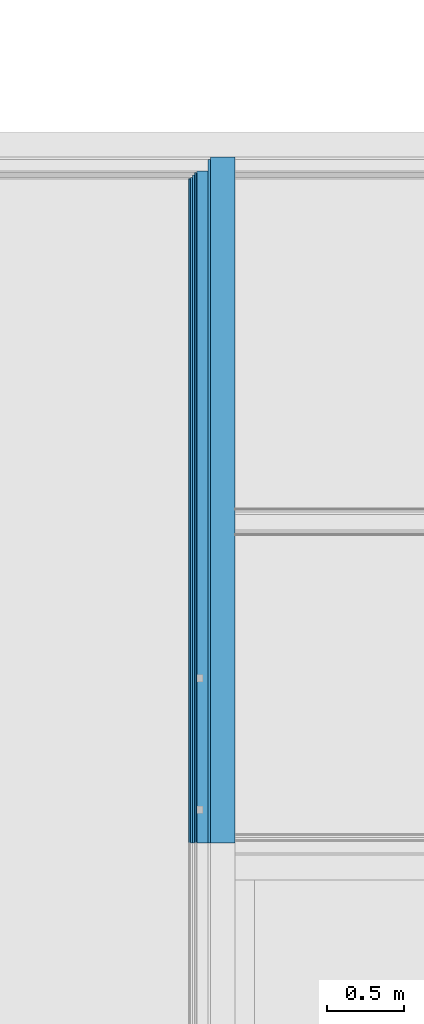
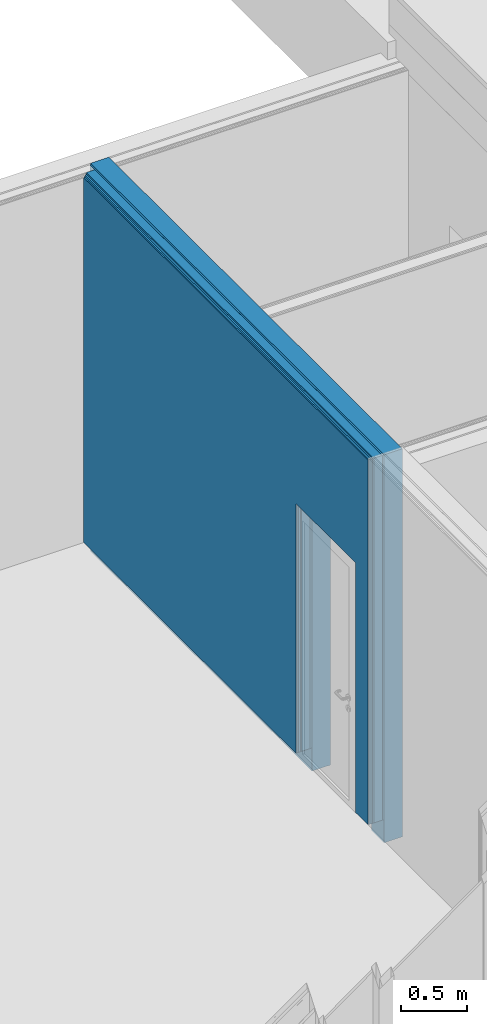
# One storey, part 30 of 139: 7 building element parts, 1 opening, 1 element without a shape of its own.
"""IFC2X3 building model written with IfcOpenShell, lengths in millimetres."""

from ifc_helpers import new_model, entity, si_unit, converted_unit, derived_unit, money_unit, direction, frame, origin_with_axes, place, context, subcontext, project, spatial, faceted_brep, material, type_object, element, aggregate, save


model = new_model("IFC2X3")

# Units and contexts
model_context = context("Model", 3, precision=0.01, world=origin_with_axes(), true_north=direction((0.0, 1.0)))
body_context = subcontext(model_context, "Body", "Model", "MODEL_VIEW")
ifc_project = project(units=[si_unit("LENGTHUNIT", "METRE", prefix="MILLI"), si_unit("AREAUNIT", "SQUARE_METRE"), si_unit("VOLUMEUNIT", "CUBIC_METRE"), converted_unit("PLANEANGLEUNIT", "DEGREE", entity("IfcPlaneAngleMeasure", 0.0174532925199), si_unit("PLANEANGLEUNIT", "RADIAN"), dimensions=[0, 0, 0, 0, 0, 0, 0]), money_unit("EUR"), converted_unit("TIMEUNIT", "Year", entity("IfcTimeMeasure", 31556926.0), si_unit("TIMEUNIT", "SECOND"), dimensions=[0, 0, 1, 0, 0, 0, 0]), si_unit("MASSUNIT", "GRAM", prefix="KILO"), si_unit("THERMODYNAMICTEMPERATUREUNIT", "DEGREE_CELSIUS"), si_unit("LUMINOUSINTENSITYUNIT", "LUMEN"), si_unit("ENERGYUNIT", "JOULE", prefix="MEGA"), derived_unit("THERMALCONDUCTANCEUNIT", [(si_unit("POWERUNIT", "WATT"), 1), (si_unit("LENGTHUNIT", "METRE"), -1), (si_unit("THERMODYNAMICTEMPERATUREUNIT", "KELVIN"), -1)]), derived_unit("SPECIFICHEATCAPACITYUNIT", [(si_unit("ENERGYUNIT", "JOULE"), 1), (si_unit("MASSUNIT", "GRAM", prefix="KILO"), -1), (si_unit("THERMODYNAMICTEMPERATUREUNIT", "KELVIN"), -1)]), derived_unit("MASSDENSITYUNIT", [(si_unit("MASSUNIT", "GRAM", prefix="KILO"), 1), (si_unit("VOLUMEUNIT", "CUBIC_METRE"), -1)])], contexts=[model_context])

# Site, building, storey
site_placement = place(None, origin_with_axes())
site = spatial("IfcSite", under=ifc_project, at=site_placement, Name="Kolde pst 67a", CompositionType="ELEMENT")
building_placement = place(site_placement, origin_with_axes())
building = spatial("IfcBuilding", under=site, at=building_placement, Name="Riigigümnaasium", CompositionType="ELEMENT")
storey_placement = place(building_placement, frame((0.0, 0.0, 4600.0), z_axis=(0.0, 0.0, 1.0), x_axis=(1.0, 0.0, 0.0)))
storey = spatial("IfcBuildingStorey", under=building, at=storey_placement, Name="2. korrus", CompositionType="ELEMENT", Elevation=4600.0)

# Wall, opening, building element parts
wall_type = type_object("IfcWallType", Name="SS-CLT-16/1_vill75+krohv 52 dB 300", PredefinedType="NOTDEFINED")
wall_placement = place(storey_placement, frame((24040.0027342, 67089.9975879, -214.0), z_axis=(0.0, 0.0, 1.0), x_axis=(0.0, -1.0, 0.0)))
wall = element("IfcWall", 1, at=wall_placement, inside=storey, type_object=wall_type, Name="Sisesein")
opening_placement = place(wall_placement, frame((3789.99969952, 0.0, 214.0), z_axis=(0.0, 0.0, 1.0), x_axis=(1.0, 0.0, 0.0)))
element("IfcOpeningElement", 2, at=opening_placement, cuts=wall, Name="Siseuks", context=body_context, shape_type="Brep", body=[
    faceted_brep([(-450.0, 300.0, 2300.0), (-450.0, 300.0, 0.0), (-450.0, -600.0, 0.0), (-450.0, -600.0, 2300.0), (450.0, 300.0, 2300.0), (450.0, 300.0, 0.0), (450.0, -600.0, 0.0), (450.0, -600.0, 2300.0)], [[[0, 1, 2, 3]], [[0, 4, 5, 1]], [[1, 5, 6, 2]], [[3, 2, 6, 7]], [[4, 0, 3, 7]], [[5, 4, 7, 6]]]),
])
ifc_material_1 = material(Name="_KANDETARIND - CLT ristkihtliimpuit vastavalt EK osale, CLT paigaldusvuugid teibitakse ROTHOBLAAS teibiga")
building_element_part_1_placement = place(wall_placement, origin_with_axes())
building_element_part_1 = element("IfcBuildingElementPart", 3, at=building_element_part_1_placement, material=ifc_material_1, Name="_KANDETARIND - CLT ristkihtliimpuit vastavalt EK osale, CLT paigaldusvuugid teibitakse ROTHOBLAAS teibiga", context=body_context, shape_type="Brep", body=[
    faceted_brep([(0.0, 0.0, 3573.0), (-0.000300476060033, 160.0, 3573.0), (-0.000300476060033, 160.0, 64.0), (0.0, 160.0, 0.0), (0.0, 0.0, 0.0), (4428.81437659, 160.0, 3573.0), (4428.81437659, 0.0, 3573.0), (4428.81437659, 160.0, 0.0), (4239.99969952, 160.0, 0.0), (4239.99969952, 160.0, 214.0), (4239.99969952, 160.0, 2514.0), (3339.99969952, 160.0, 2514.0), (3339.99969952, 160.0, 214.0), (3339.99969952, 160.0, 0.0), (3339.99969952, 0.0, 0.0), (3339.99969952, 0.0, 214.0), (3339.99969952, 0.0, 2514.0), (4239.99969952, 0.0, 2514.0), (4239.99969952, 0.0, 214.0), (4239.99969952, 0.0, 0.0), (4428.81437659, 0.0, 0.0)], [[[0, 1, 2, 3, 4]], [[5, 1, 0, 6]], [[1, 5, 7, 8, 9, 10, 11, 12, 13, 3, 2]], [[13, 14, 4, 3]], [[6, 0, 4, 14, 15, 16, 17, 18, 19, 20]], [[5, 6, 20, 7]], [[19, 8, 7, 20]], [[19, 18, 9, 8]], [[17, 10, 9, 18]], [[16, 11, 10, 17]], [[15, 12, 11, 16]], [[13, 12, 15, 14]]]),
])
ifc_material_2 = material(Name="_ÕHKVAHE")
building_element_part_2_placement = place(wall_placement, origin_with_axes())
building_element_part_2 = element("IfcBuildingElementPart", 4, at=building_element_part_2_placement, material=ifc_material_2, Name="_ÕHKVAHE", context=body_context, shape_type="Brep", body=[
    faceted_brep([(14.9996995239, -15.0, 3573.0), (14.9996995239, 0.0, 3573.0), (14.9996995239, 0.0, 214.0), (14.9996995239, -15.0, 214.0), (4428.81437659, 0.0, 3573.0), (4428.81437659, -15.0, 3573.0), (4428.81437659, 0.0, 214.0), (4239.99969952, 0.0, 214.0), (4239.99969952, 0.0, 2514.0), (3339.99969952, 0.0, 2514.0), (3339.99969952, 0.0, 214.0), (3339.99969952, -15.0, 214.0), (3339.99969952, -15.0, 2514.0), (4239.99969952, -15.0, 2514.0), (4239.99969952, -15.0, 214.0), (4428.81437659, -15.0, 214.0)], [[[0, 1, 2, 3]], [[4, 1, 0, 5]], [[1, 4, 6, 7, 8, 9, 10, 2]], [[2, 10, 11, 3]], [[5, 0, 3, 11, 12, 13, 14, 15]], [[4, 5, 15, 6]], [[15, 14, 7, 6]], [[13, 8, 7, 14]], [[12, 9, 8, 13]], [[11, 10, 9, 12]]]),
])
ifc_material_3 = material(Name="_KARKASS - metallkarkass CW 75/50/06 ja UW 75/40/06, samm 600, vahel mineraalvill, helineeldetegur αw = 1.0,  ISOVER ACOUSTIC 75mm või samaväärne")
building_element_part_3_placement = place(wall_placement, origin_with_axes())
building_element_part_3 = element("IfcBuildingElementPart", 5, at=building_element_part_3_placement, material=ifc_material_3, Name="_KARKASS - metallkarkass CW 75/50/06 ja UW 75/40/06, samm 600, vahel mineraalvill, helineeldetegur αw = 1.0,  ISOVER ACOUSTIC 75mm või samaväärne", context=body_context, shape_type="Brep", body=[
    faceted_brep([(89.9996995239, -90.0, 3573.0), (89.9996995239, -15.0, 3573.0), (89.9996995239, -15.0, 214.0), (89.9996995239, -90.0, 214.0), (4428.81437659, -15.0, 3573.0), (4428.81437659, -90.0, 3573.0), (4428.81437659, -15.0, 214.0), (4239.99969952, -15.0, 214.0), (4239.99969952, -15.0, 2514.0), (3339.99969952, -15.0, 2514.0), (3339.99969952, -15.0, 214.0), (3339.99969952, -90.0, 214.0), (3339.99969952, -90.0, 2514.0), (4239.99969952, -90.0, 2514.0), (4239.99969952, -90.0, 214.0), (4428.81437659, -90.0, 214.0)], [[[0, 1, 2, 3]], [[4, 1, 0, 5]], [[1, 4, 6, 7, 8, 9, 10, 2]], [[2, 10, 11, 3]], [[5, 0, 3, 11, 12, 13, 14, 15]], [[4, 5, 15, 6]], [[15, 14, 7, 6]], [[13, 8, 7, 14]], [[12, 9, 8, 13]], [[11, 10, 9, 12]]]),
])
ifc_material_4 = material(Name="_PLAATMATERJAL - OSB3 plaat")
building_element_part_4_placement = place(wall_placement, origin_with_axes())
building_element_part_4 = element("IfcBuildingElementPart", 6, at=building_element_part_4_placement, material=ifc_material_4, Name="_PLAATMATERJAL - OSB3 plaat", context=body_context, shape_type="Brep", body=[
    faceted_brep([(99.9996995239, -100.0, 3573.0), (99.9996995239, -90.0, 3573.0), (99.9996995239, -90.0, 214.0), (99.9996995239, -100.0, 214.0), (4428.81437659, -90.0, 3573.0), (4428.81437659, -100.0, 3573.0), (4428.81437659, -90.0, 214.0), (4239.99969952, -90.0, 214.0), (4239.99969952, -90.0, 2514.0), (3339.99969952, -90.0, 2514.0), (3339.99969952, -90.0, 214.0), (3339.99969952, -100.0, 214.0), (3339.99969952, -100.0, 2514.0), (4239.99969952, -100.0, 2514.0), (4239.99969952, -100.0, 214.0), (4428.81437659, -100.0, 214.0)], [[[0, 1, 2, 3]], [[4, 1, 0, 5]], [[1, 4, 6, 7, 8, 9, 10, 2]], [[2, 10, 11, 3]], [[5, 0, 3, 11, 12, 13, 14, 15]], [[4, 5, 15, 6]], [[15, 14, 7, 6]], [[13, 8, 7, 14]], [[12, 9, 8, 13]], [[11, 10, 9, 12]]]),
])
ifc_material_5 = material(Name="_PLAATMATERJAL - tuletõkkekipsplaat, Knauf Red GKF või samaväärne")
building_element_part_5_placement = place(wall_placement, origin_with_axes())
building_element_part_5 = element("IfcBuildingElementPart", 7, at=building_element_part_5_placement, material=ifc_material_5, Name="_PLAATMATERJAL - tuletõkkekipsplaat, Knauf Red GKF või samaväärne", context=body_context, shape_type="Brep", body=[
    faceted_brep([(114.999699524, -115.0, 3573.0), (114.999699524, -100.0, 3573.0), (114.999699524, -100.0, 214.0), (114.999699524, -115.0, 214.0), (4428.81437659, -100.0, 3573.0), (4428.81437659, -115.0, 3573.0), (4428.81437659, -100.0, 214.0), (4239.99969952, -100.0, 214.0), (4239.99969952, -100.0, 2514.0), (3339.99969952, -100.0, 2514.0), (3339.99969952, -100.0, 214.0), (3339.99969952, -115.0, 214.0), (3339.99969952, -115.0, 2514.0), (4239.99969952, -115.0, 2514.0), (4239.99969952, -115.0, 214.0), (4428.81437659, -115.0, 214.0)], [[[0, 1, 2, 3]], [[4, 1, 0, 5]], [[1, 4, 6, 7, 8, 9, 10, 2]], [[2, 10, 11, 3]], [[5, 0, 3, 11, 12, 13, 14, 15]], [[4, 5, 15, 6]], [[15, 14, 7, 6]], [[13, 8, 7, 14]], [[12, 9, 8, 13]], [[11, 10, 9, 12]]]),
])
building_element_part_6_placement = place(wall_placement, origin_with_axes())
building_element_part_6 = element("IfcBuildingElementPart", 8, at=building_element_part_6_placement, material=ifc_material_5, Name="_PLAATMATERJAL - tuletõkkekipsplaat, Knauf Red GKF või samaväärne", context=body_context, shape_type="Brep", body=[
    faceted_brep([(129.999699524, -130.0, 3573.0), (129.999699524, -115.0, 3573.0), (129.999699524, -115.0, 214.0), (129.999699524, -130.0, 214.0), (4428.81437659, -115.0, 3573.0), (4428.81437659, -130.0, 3573.0), (4428.81437659, -115.0, 214.0), (4239.99969952, -115.0, 214.0), (4239.99969952, -115.0, 2514.0), (3339.99969952, -115.0, 2514.0), (3339.99969952, -115.0, 214.0), (3339.99969952, -130.0, 214.0), (3339.99969952, -130.0, 2514.0), (4239.99969952, -130.0, 2514.0), (4239.99969952, -130.0, 214.0), (4428.81437659, -130.0, 214.0)], [[[0, 1, 2, 3]], [[4, 1, 0, 5]], [[1, 4, 6, 7, 8, 9, 10, 2]], [[2, 10, 11, 3]], [[5, 0, 3, 11, 12, 13, 14, 15]], [[4, 5, 15, 6]], [[15, 14, 7, 6]], [[13, 8, 7, 14]], [[12, 9, 8, 13]], [[11, 10, 9, 12]]]),
])
ifc_material_6 = material(Name="_VIIMISTLUSKIHT - viimistlus vastavalt SA osale")
building_element_part_7_placement = place(wall_placement, origin_with_axes())
building_element_part_7 = element("IfcBuildingElementPart", 9, at=building_element_part_7_placement, material=ifc_material_6, Name="_VIIMISTLUSKIHT - viimistlus vastavalt SA osale", context=body_context, shape_type="Brep", body=[
    faceted_brep([(139.999699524, -140.0, 3573.0), (139.999699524, -130.0, 3573.0), (139.999699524, -130.0, 214.0), (139.999699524, -140.0, 214.0), (4428.81437659, -130.0, 3573.0), (4428.81437659, -140.0, 3573.0), (4428.81437659, -130.0, 214.0), (4239.99969952, -130.0, 214.0), (4239.99969952, -130.0, 2514.0), (3339.99969952, -130.0, 2514.0), (3339.99969952, -130.0, 214.0), (3339.99969952, -140.0, 214.0), (3339.99969952, -140.0, 2514.0), (4239.99969952, -140.0, 2514.0), (4239.99969952, -140.0, 214.0), (4428.81437659, -140.0, 214.0)], [[[0, 1, 2, 3]], [[4, 1, 0, 5]], [[1, 4, 6, 7, 8, 9, 10, 2]], [[2, 10, 11, 3]], [[5, 0, 3, 11, 12, 13, 14, 15]], [[4, 5, 15, 6]], [[15, 14, 7, 6]], [[13, 8, 7, 14]], [[12, 9, 8, 13]], [[11, 10, 9, 12]]]),
])
aggregate(wall, [building_element_part_1, building_element_part_2, building_element_part_3, building_element_part_4, building_element_part_5, building_element_part_6, building_element_part_7])

save(model, "model.ifc")
